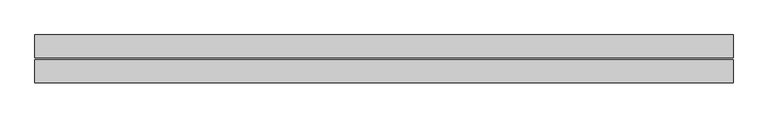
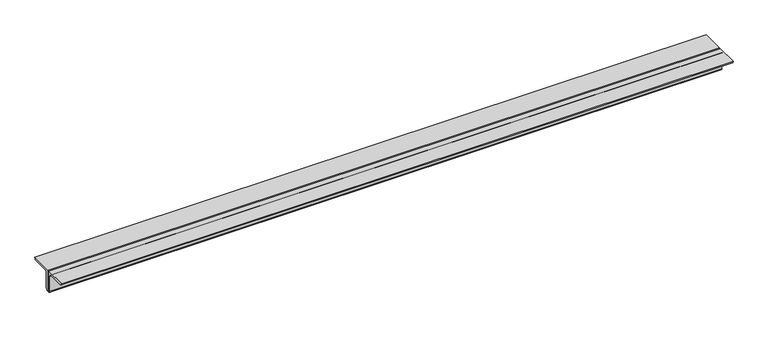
"""IFC4 building model written with IfcOpenShell, lengths in millimetres: beam geometry, Profilati doppi a L : DCED150x12."""

from ifc_helpers import new_model, si_unit, point, frame, frame_2d, origin, place, context, project, spatial, polyline, circle_curve, trimmed, segment, composite_curve, outline, extrude, source, transform, mapped, element, save


def beam_cf659598(model_context):
    return source(origin(), model_context, "Body", "SweptSolid", [
        extrude(outline(composite_curve([segment(polyline([(6.0, 42.4), (156.0, 42.4)]), True, "CONTINUOUS"), segment(trimmed(circle_curve(frame_2d((141.0, 42.4)), 15.0), [point((156.0, 42.4))], [point((141.0, 27.4))], False, "CARTESIAN"), True, "CONTINUOUS"), segment(polyline([(141.0, 27.4), (36.0, 27.4)]), True, "CONTINUOUS"), segment(trimmed(circle_curve(frame_2d((36.0, 12.4)), 15.0), [point((36.0, 27.4))], [point((21.0, 12.4))], True, "CARTESIAN"), True, "CONTINUOUS"), segment(polyline([(21.0, 12.4), (21.0, -92.6)]), True, "CONTINUOUS"), segment(trimmed(circle_curve(frame_2d((6.0, -92.6)), 15.0), [point((21.0, -92.6))], [point((6.0, -107.6))], False, "CARTESIAN"), True, "CONTINUOUS"), segment(polyline([(6.0, -107.6), (6.0, 42.4)]), True, "CONTINUOUS")], self_intersect=False)), frame((-2063.0, 0.0, 0.0), z_axis=(1.0, 0.0, 0.0), x_axis=(0.0, 1.0, 0.0)), (0.0, 0.0, 1.0), 4549.0),
        extrude(outline(composite_curve([segment(polyline([(-6.0, 42.4), (-6.0, -107.6)]), True, "CONTINUOUS"), segment(trimmed(circle_curve(frame_2d((-6.0, -92.6)), 15.0), [point((-6.0, -107.6))], [point((-21.0, -92.6))], False, "CARTESIAN"), True, "CONTINUOUS"), segment(polyline([(-21.0, -92.6), (-21.0, 12.4)]), True, "CONTINUOUS"), segment(trimmed(circle_curve(frame_2d((-36.0, 12.4)), 15.0), [point((-21.0, 12.4))], [point((-36.0, 27.4))], True, "CARTESIAN"), True, "CONTINUOUS"), segment(polyline([(-36.0, 27.4), (-141.0, 27.4)]), True, "CONTINUOUS"), segment(trimmed(circle_curve(frame_2d((-141.0, 42.4)), 15.0), [point((-141.0, 27.4))], [point((-156.0, 42.4))], False, "CARTESIAN"), True, "CONTINUOUS"), segment(polyline([(-156.0, 42.4), (-6.0, 42.4)]), True, "CONTINUOUS")], self_intersect=False)), frame((-2063.0, 0.0, 0.0), z_axis=(1.0, 0.0, 0.0), x_axis=(0.0, 1.0, 0.0)), (0.0, 0.0, 1.0), 4549.0),
    ])


if __name__ == "__main__":
    model = new_model("IFC4")
    model_context = context("Model", 3, world=origin())
    ifc_project = project(units=[si_unit("LENGTHUNIT", "METRE", prefix="MILLI")], contexts=[model_context])
    site = spatial("IfcSite", under=ifc_project)
    building = spatial("IfcBuilding", under=site)
    placement = place(None, origin())
    beam_shape = beam_cf659598(model_context)
    element("IfcBeam", 1, ObjectType="Profilati doppi a L : DCED150x12", at=placement, inside=building, context=model_context, shape_type="MappedRepresentation", body=[
        mapped(beam_shape, transform((0.0, 0.0, 0.0), x_axis=(1.0, 0.0, 0.0), y_axis=(0.0, 1.0, 0.0), z_axis=(0.0, 0.0, 1.0))),
    ])
    save(model, "model.ifc")
